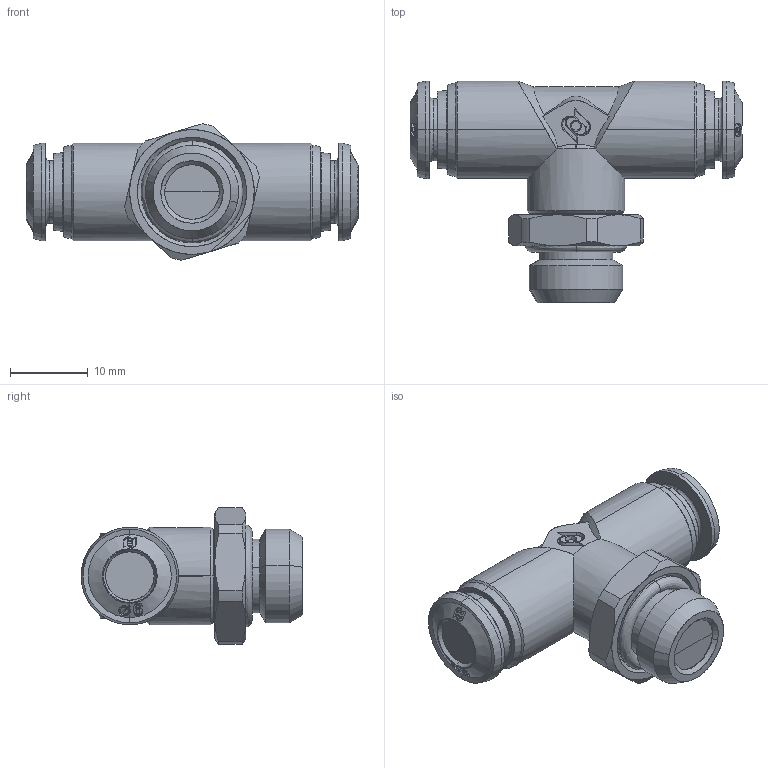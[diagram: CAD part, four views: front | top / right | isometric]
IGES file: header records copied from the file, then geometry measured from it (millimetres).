
Start section: SolidWorks IGES file using analytic representation for surfaces
Global section: file name: K:\Disegni Esecutivi\Serie 50000\ASSIEMI_50000\50216\ASSIEMI_.IGES_50216\5021600022B.IGS; native system: SolidWorks 2009; preprocessor: SolidWorks 2009; author: cad05; date: 090706.112514; units: millimetre
Bounding box: 42.6 x 28.45 x 17.51 mm (x, y, z)
Surface area: 3520.6 mm2 (no closed solid volume)
Topology: 0 solids, 0 shells, 325 faces, 3777 edges, 3773 vertices
Faces by surface type: bspline 171, revolution 154
